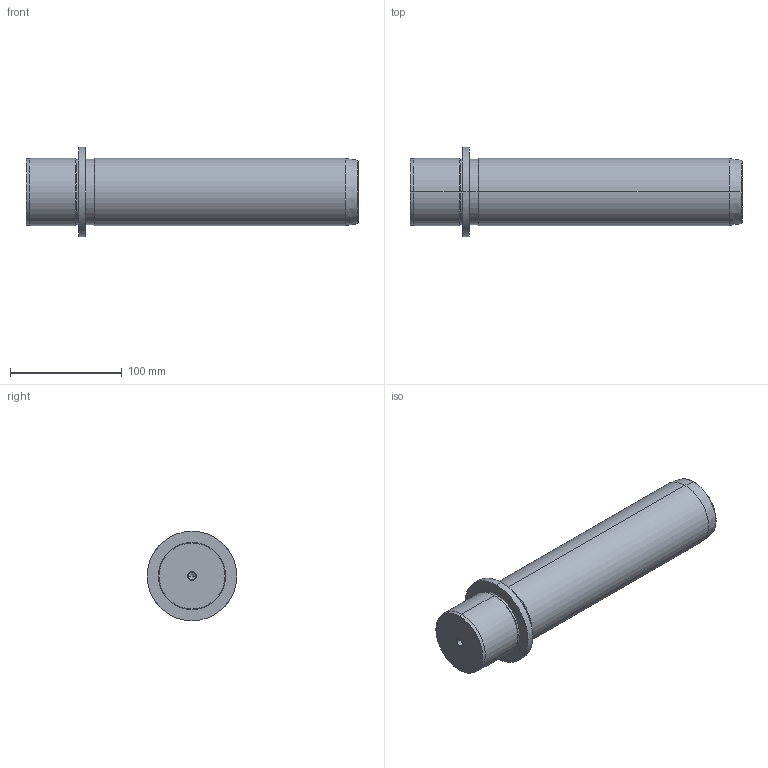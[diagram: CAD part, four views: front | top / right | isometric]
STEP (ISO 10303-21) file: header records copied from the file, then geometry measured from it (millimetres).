
FILE_DESCRIPTION(('CATIA V5 STEP Exchange'),'2;1');
FILE_NAME('C:\Users\Utente\Desktop\IO LAVORO\3D X SITO CF\X SITO\718\718-60x250.stp','2021-01-02T12:09:00+00:00',('none'),('none'),'CATIA Version 5 Release 20 GA (IN-10)','CATIA V5 STEP AP203','none');
FILE_SCHEMA(('CONFIG_CONTROL_DESIGN'));
Length unit declared in the file: millimetre
Products named in the file (1): 718-60x250
Bounding box: 297 x 80 x 80 mm (x, y, z)
Volume: 848357.3 mm3; surface area: 67161.4 mm2
Topology: 1 solids, 1 shells, 36 faces, 100 edges, 66 vertices
Faces by surface type: cone 16, cylinder 14, plane 4, torus 2
Entity records: 1291 total; most frequent: CARTESIAN_POINT 362, ORIENTED_EDGE 192, DIRECTION 157, EDGE_CURVE 96, AXIS2_PLACEMENT_3D 92, VERTEX_POINT 66, CIRCLE 55, EDGE_LOOP 40
